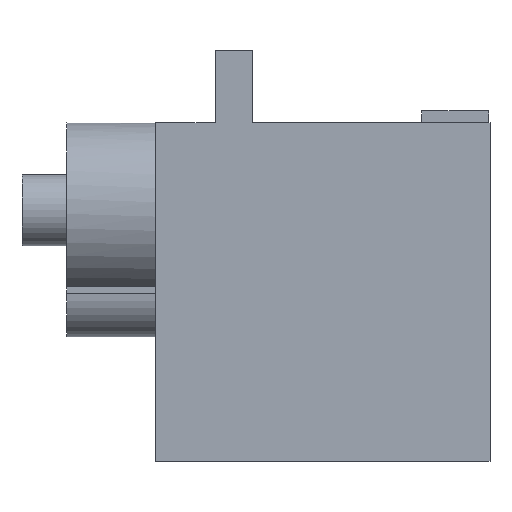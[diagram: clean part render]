
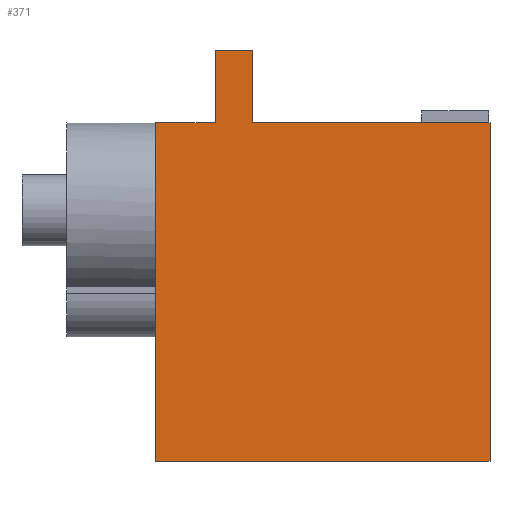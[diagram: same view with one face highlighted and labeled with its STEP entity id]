
A CAD part, front view. The second image highlights one B-rep face of the part: STEP entity #371.
In plain terms, the highlighted planar face has unit normal (0, -1, 0).
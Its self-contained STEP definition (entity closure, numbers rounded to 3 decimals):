
#22 = VERTEX_POINT('',#23);
#23 = CARTESIAN_POINT('',(-6.5,17.1,-18.3));
#32 = PLANE('',#33);
#33 = AXIS2_PLACEMENT_3D('',#34,#35,#36);
#34 = CARTESIAN_POINT('',(-6.5,17.1,-41.1));
#35 = DIRECTION('',(1.,0.,-0.));
#36 = DIRECTION('',(0.,0.,1.));
#44 = PLANE('',#45);
#45 = AXIS2_PLACEMENT_3D('',#46,#47,#48);
#46 = CARTESIAN_POINT('',(-6.5,17.1,-18.3));
#47 = DIRECTION('',(0.,0.,1.));
#48 = DIRECTION('',(1.,0.,-0.));
#56 = EDGE_CURVE('',#57,#22,#59,.T.);
#57 = VERTEX_POINT('',#58);
#58 = CARTESIAN_POINT('',(-6.5,17.1,-41.1));
#59 = SURFACE_CURVE('',#60,(#64,#71),.PCURVE_S1.);
#60 = LINE('',#61,#62);
#61 = CARTESIAN_POINT('',(-6.5,17.1,-41.1));
#62 = VECTOR('',#63,1.);
#63 = DIRECTION('',(0.,0.,1.));
#64 = PCURVE('',#32,#65);
#65 = DEFINITIONAL_REPRESENTATION('',(#66),#70);
#66 = LINE('',#67,#68);
#67 = CARTESIAN_POINT('',(0.,0.));
#68 = VECTOR('',#69,1.);
#69 = DIRECTION('',(1.,0.));
#70 = ( GEOMETRIC_REPRESENTATION_CONTEXT(2) 
PARAMETRIC_REPRESENTATION_CONTEXT() REPRESENTATION_CONTEXT('2D SPACE',''
  ) );
#71 = PCURVE('',#72,#77);
#72 = PLANE('',#73);
#73 = AXIS2_PLACEMENT_3D('',#74,#75,#76);
#74 = CARTESIAN_POINT('',(-6.5,17.1,-41.1));
#75 = DIRECTION('',(-0.,1.,0.));
#76 = DIRECTION('',(0.,0.,1.));
#77 = DEFINITIONAL_REPRESENTATION('',(#78),#82);
#78 = LINE('',#79,#80);
#79 = CARTESIAN_POINT('',(0.,0.));
#80 = VECTOR('',#81,1.);
#81 = DIRECTION('',(1.,0.));
#82 = ( GEOMETRIC_REPRESENTATION_CONTEXT(2) 
PARAMETRIC_REPRESENTATION_CONTEXT() REPRESENTATION_CONTEXT('2D SPACE',''
  ) );
#100 = PLANE('',#101);
#101 = AXIS2_PLACEMENT_3D('',#102,#103,#104);
#102 = CARTESIAN_POINT('',(-6.5,17.1,-41.1));
#103 = DIRECTION('',(0.,0.,1.));
#104 = DIRECTION('',(1.,0.,-0.));
#301 = EDGE_CURVE('',#22,#302,#304,.T.);
#302 = VERTEX_POINT('',#303);
#303 = CARTESIAN_POINT('',(-2.5,17.1,-18.3));
#304 = SURFACE_CURVE('',#305,(#309,#316),.PCURVE_S1.);
#305 = LINE('',#306,#307);
#306 = CARTESIAN_POINT('',(-6.5,17.1,-18.3));
#307 = VECTOR('',#308,1.);
#308 = DIRECTION('',(1.,0.,-0.));
#309 = PCURVE('',#44,#310);
#310 = DEFINITIONAL_REPRESENTATION('',(#311),#315);
#311 = LINE('',#312,#313);
#312 = CARTESIAN_POINT('',(0.,0.));
#313 = VECTOR('',#314,1.);
#314 = DIRECTION('',(1.,0.));
#315 = ( GEOMETRIC_REPRESENTATION_CONTEXT(2) 
PARAMETRIC_REPRESENTATION_CONTEXT() REPRESENTATION_CONTEXT('2D SPACE',''
  ) );
#316 = PCURVE('',#72,#317);
#317 = DEFINITIONAL_REPRESENTATION('',(#318),#322);
#318 = LINE('',#319,#320);
#319 = CARTESIAN_POINT('',(22.8,0.));
#320 = VECTOR('',#321,1.);
#321 = DIRECTION('',(0.,1.));
#322 = ( GEOMETRIC_REPRESENTATION_CONTEXT(2) 
PARAMETRIC_REPRESENTATION_CONTEXT() REPRESENTATION_CONTEXT('2D SPACE',''
  ) );
#339 = PLANE('',#340);
#340 = AXIS2_PLACEMENT_3D('',#341,#342,#343);
#341 = CARTESIAN_POINT('',(-2.5,17.1,-18.5));
#342 = DIRECTION('',(1.,0.,-0.));
#343 = DIRECTION('',(0.,0.,1.));
#371 = ADVANCED_FACE('',(#372),#72,.F.);
#372 = FACE_BOUND('',#373,.F.);
#373 = EDGE_LOOP('',(#374,#404,#425,#426,#427,#450,#478,#506));
#374 = ORIENTED_EDGE('',*,*,#375,.F.);
#375 = EDGE_CURVE('',#376,#378,#380,.T.);
#376 = VERTEX_POINT('',#377);
#377 = CARTESIAN_POINT('',(16.,17.1,-41.1));
#378 = VERTEX_POINT('',#379);
#379 = CARTESIAN_POINT('',(16.,17.1,-18.3));
#380 = SURFACE_CURVE('',#381,(#385,#392),.PCURVE_S1.);
#381 = LINE('',#382,#383);
#382 = CARTESIAN_POINT('',(16.,17.1,-41.1));
#383 = VECTOR('',#384,1.);
#384 = DIRECTION('',(0.,0.,1.));
#385 = PCURVE('',#72,#386);
#386 = DEFINITIONAL_REPRESENTATION('',(#387),#391);
#387 = LINE('',#388,#389);
#388 = CARTESIAN_POINT('',(0.,22.5));
#389 = VECTOR('',#390,1.);
#390 = DIRECTION('',(1.,0.));
#391 = ( GEOMETRIC_REPRESENTATION_CONTEXT(2) 
PARAMETRIC_REPRESENTATION_CONTEXT() REPRESENTATION_CONTEXT('2D SPACE',''
  ) );
#392 = PCURVE('',#393,#398);
#393 = PLANE('',#394);
#394 = AXIS2_PLACEMENT_3D('',#395,#396,#397);
#395 = CARTESIAN_POINT('',(16.,17.1,-41.1));
#396 = DIRECTION('',(1.,0.,-0.));
#397 = DIRECTION('',(0.,0.,1.));
#398 = DEFINITIONAL_REPRESENTATION('',(#399),#403);
#399 = LINE('',#400,#401);
#400 = CARTESIAN_POINT('',(0.,0.));
#401 = VECTOR('',#402,1.);
#402 = DIRECTION('',(1.,0.));
#403 = ( GEOMETRIC_REPRESENTATION_CONTEXT(2) 
PARAMETRIC_REPRESENTATION_CONTEXT() REPRESENTATION_CONTEXT('2D SPACE',''
  ) );
#404 = ORIENTED_EDGE('',*,*,#405,.F.);
#405 = EDGE_CURVE('',#57,#376,#406,.T.);
#406 = SURFACE_CURVE('',#407,(#411,#418),.PCURVE_S1.);
#407 = LINE('',#408,#409);
#408 = CARTESIAN_POINT('',(-6.5,17.1,-41.1));
#409 = VECTOR('',#410,1.);
#410 = DIRECTION('',(1.,0.,-0.));
#411 = PCURVE('',#72,#412);
#412 = DEFINITIONAL_REPRESENTATION('',(#413),#417);
#413 = LINE('',#414,#415);
#414 = CARTESIAN_POINT('',(0.,0.));
#415 = VECTOR('',#416,1.);
#416 = DIRECTION('',(0.,1.));
#417 = ( GEOMETRIC_REPRESENTATION_CONTEXT(2) 
PARAMETRIC_REPRESENTATION_CONTEXT() REPRESENTATION_CONTEXT('2D SPACE',''
  ) );
#418 = PCURVE('',#100,#419);
#419 = DEFINITIONAL_REPRESENTATION('',(#420),#424);
#420 = LINE('',#421,#422);
#421 = CARTESIAN_POINT('',(0.,0.));
#422 = VECTOR('',#423,1.);
#423 = DIRECTION('',(1.,0.));
#424 = ( GEOMETRIC_REPRESENTATION_CONTEXT(2) 
PARAMETRIC_REPRESENTATION_CONTEXT() REPRESENTATION_CONTEXT('2D SPACE',''
  ) );
#425 = ORIENTED_EDGE('',*,*,#56,.T.);
#426 = ORIENTED_EDGE('',*,*,#301,.T.);
#427 = ORIENTED_EDGE('',*,*,#428,.T.);
#428 = EDGE_CURVE('',#302,#429,#431,.T.);
#429 = VERTEX_POINT('',#430);
#430 = CARTESIAN_POINT('',(-2.5,17.1,-13.45));
#431 = SURFACE_CURVE('',#432,(#436,#443),.PCURVE_S1.);
#432 = LINE('',#433,#434);
#433 = CARTESIAN_POINT('',(-2.5,17.1,-18.5));
#434 = VECTOR('',#435,1.);
#435 = DIRECTION('',(0.,0.,1.));
#436 = PCURVE('',#72,#437);
#437 = DEFINITIONAL_REPRESENTATION('',(#438),#442);
#438 = LINE('',#439,#440);
#439 = CARTESIAN_POINT('',(22.6,4.));
#440 = VECTOR('',#441,1.);
#441 = DIRECTION('',(1.,0.));
#442 = ( GEOMETRIC_REPRESENTATION_CONTEXT(2) 
PARAMETRIC_REPRESENTATION_CONTEXT() REPRESENTATION_CONTEXT('2D SPACE',''
  ) );
#443 = PCURVE('',#339,#444);
#444 = DEFINITIONAL_REPRESENTATION('',(#445),#449);
#445 = LINE('',#446,#447);
#446 = CARTESIAN_POINT('',(0.,0.));
#447 = VECTOR('',#448,1.);
#448 = DIRECTION('',(1.,0.));
#449 = ( GEOMETRIC_REPRESENTATION_CONTEXT(2) 
PARAMETRIC_REPRESENTATION_CONTEXT() REPRESENTATION_CONTEXT('2D SPACE',''
  ) );
#450 = ORIENTED_EDGE('',*,*,#451,.T.);
#451 = EDGE_CURVE('',#429,#452,#454,.T.);
#452 = VERTEX_POINT('',#453);
#453 = CARTESIAN_POINT('',(0.,17.1,-13.45));
#454 = SURFACE_CURVE('',#455,(#459,#466),.PCURVE_S1.);
#455 = LINE('',#456,#457);
#456 = CARTESIAN_POINT('',(-2.5,17.1,-13.45));
#457 = VECTOR('',#458,1.);
#458 = DIRECTION('',(1.,0.,-0.));
#459 = PCURVE('',#72,#460);
#460 = DEFINITIONAL_REPRESENTATION('',(#461),#465);
#461 = LINE('',#462,#463);
#462 = CARTESIAN_POINT('',(27.65,4.));
#463 = VECTOR('',#464,1.);
#464 = DIRECTION('',(0.,1.));
#465 = ( GEOMETRIC_REPRESENTATION_CONTEXT(2) 
PARAMETRIC_REPRESENTATION_CONTEXT() REPRESENTATION_CONTEXT('2D SPACE',''
  ) );
#466 = PCURVE('',#467,#472);
#467 = PLANE('',#468);
#468 = AXIS2_PLACEMENT_3D('',#469,#470,#471);
#469 = CARTESIAN_POINT('',(-2.5,17.1,-13.45));
#470 = DIRECTION('',(0.,0.,1.));
#471 = DIRECTION('',(1.,0.,-0.));
#472 = DEFINITIONAL_REPRESENTATION('',(#473),#477);
#473 = LINE('',#474,#475);
#474 = CARTESIAN_POINT('',(0.,0.));
#475 = VECTOR('',#476,1.);
#476 = DIRECTION('',(1.,0.));
#477 = ( GEOMETRIC_REPRESENTATION_CONTEXT(2) 
PARAMETRIC_REPRESENTATION_CONTEXT() REPRESENTATION_CONTEXT('2D SPACE',''
  ) );
#478 = ORIENTED_EDGE('',*,*,#479,.F.);
#479 = EDGE_CURVE('',#480,#452,#482,.T.);
#480 = VERTEX_POINT('',#481);
#481 = CARTESIAN_POINT('',(0.,17.1,-18.3));
#482 = SURFACE_CURVE('',#483,(#487,#494),.PCURVE_S1.);
#483 = LINE('',#484,#485);
#484 = CARTESIAN_POINT('',(0.,17.1,-18.5));
#485 = VECTOR('',#486,1.);
#486 = DIRECTION('',(0.,0.,1.));
#487 = PCURVE('',#72,#488);
#488 = DEFINITIONAL_REPRESENTATION('',(#489),#493);
#489 = LINE('',#490,#491);
#490 = CARTESIAN_POINT('',(22.6,6.5));
#491 = VECTOR('',#492,1.);
#492 = DIRECTION('',(1.,0.));
#493 = ( GEOMETRIC_REPRESENTATION_CONTEXT(2) 
PARAMETRIC_REPRESENTATION_CONTEXT() REPRESENTATION_CONTEXT('2D SPACE',''
  ) );
#494 = PCURVE('',#495,#500);
#495 = PLANE('',#496);
#496 = AXIS2_PLACEMENT_3D('',#497,#498,#499);
#497 = CARTESIAN_POINT('',(0.,17.1,-18.5));
#498 = DIRECTION('',(1.,0.,-0.));
#499 = DIRECTION('',(0.,0.,1.));
#500 = DEFINITIONAL_REPRESENTATION('',(#501),#505);
#501 = LINE('',#502,#503);
#502 = CARTESIAN_POINT('',(0.,0.));
#503 = VECTOR('',#504,1.);
#504 = DIRECTION('',(1.,0.));
#505 = ( GEOMETRIC_REPRESENTATION_CONTEXT(2) 
PARAMETRIC_REPRESENTATION_CONTEXT() REPRESENTATION_CONTEXT('2D SPACE',''
  ) );
#506 = ORIENTED_EDGE('',*,*,#507,.T.);
#507 = EDGE_CURVE('',#480,#378,#508,.T.);
#508 = SURFACE_CURVE('',#509,(#513,#520),.PCURVE_S1.);
#509 = LINE('',#510,#511);
#510 = CARTESIAN_POINT('',(-6.5,17.1,-18.3));
#511 = VECTOR('',#512,1.);
#512 = DIRECTION('',(1.,0.,-0.));
#513 = PCURVE('',#72,#514);
#514 = DEFINITIONAL_REPRESENTATION('',(#515),#519);
#515 = LINE('',#516,#517);
#516 = CARTESIAN_POINT('',(22.8,0.));
#517 = VECTOR('',#518,1.);
#518 = DIRECTION('',(0.,1.));
#519 = ( GEOMETRIC_REPRESENTATION_CONTEXT(2) 
PARAMETRIC_REPRESENTATION_CONTEXT() REPRESENTATION_CONTEXT('2D SPACE',''
  ) );
#520 = PCURVE('',#521,#526);
#521 = PLANE('',#522);
#522 = AXIS2_PLACEMENT_3D('',#523,#524,#525);
#523 = CARTESIAN_POINT('',(-6.5,17.1,-18.3));
#524 = DIRECTION('',(0.,0.,1.));
#525 = DIRECTION('',(1.,0.,-0.));
#526 = DEFINITIONAL_REPRESENTATION('',(#527),#531);
#527 = LINE('',#528,#529);
#528 = CARTESIAN_POINT('',(0.,0.));
#529 = VECTOR('',#530,1.);
#530 = DIRECTION('',(1.,0.));
#531 = ( GEOMETRIC_REPRESENTATION_CONTEXT(2) 
PARAMETRIC_REPRESENTATION_CONTEXT() REPRESENTATION_CONTEXT('2D SPACE',''
  ) );
